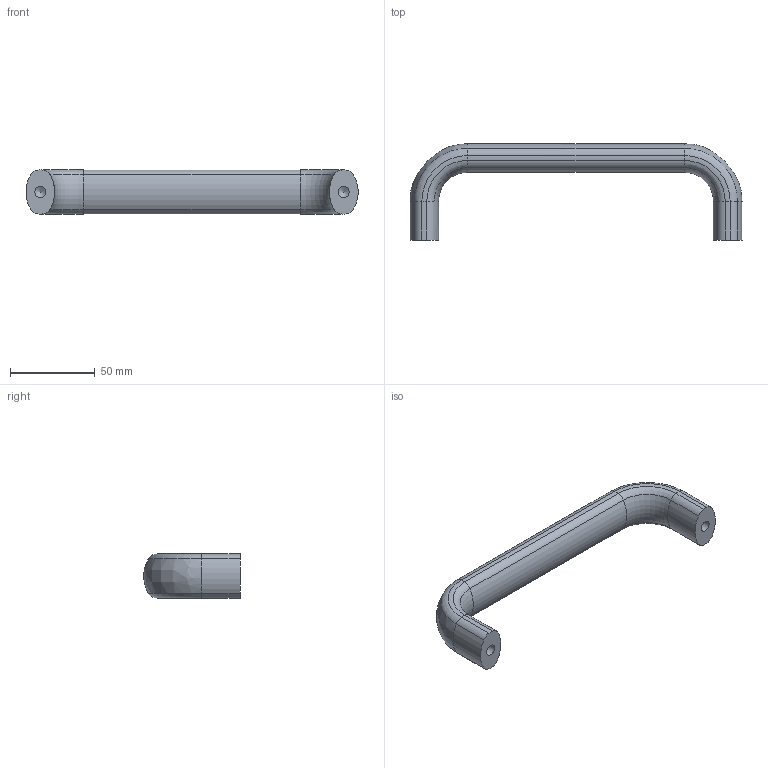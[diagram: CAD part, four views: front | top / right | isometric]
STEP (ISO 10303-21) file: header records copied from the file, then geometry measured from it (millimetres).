
FILE_DESCRIPTION( ( 'STEP AP203' ), '1' );
FILE_NAME( 'C:/Temp/Ganter_Step_05_03_2020/data/1_2/gn_565/Cabinet ''''U'''' handle GN 565-26-179-RS.stp', '2020-03-05T10:09:00', ( 'License CC BY-ND 4.0' ), ( 'CADENAS' ), ' ', 'PARTsolutions', ' ' );
FILE_SCHEMA( ( 'CONFIG_CONTROL_DESIGN' ) );
Length unit declared in the file: millimetre
Products named in the file (1): _Cabinet ''U'' handle GN 565-26-179-RS
Bounding box: 195.88 x 56.99 x 25.99 mm (x, y, z)
Volume: 89611 mm3; surface area: 18955.5 mm2
Topology: 1 solids, 1 shells, 52 faces, 130 edges, 80 vertices
Faces by surface type: cylinder 26, torus 14, plane 8, cone 2, bspline 2
Full cylindrical faces by diameter (mm): 6.647 x2
Entity records: 1648 total; most frequent: CARTESIAN_POINT 341, DIRECTION 302, ORIENTED_EDGE 248, AXIS2_PLACEMENT_3D 139, EDGE_CURVE 124, CIRCLE 88, VERTEX_POINT 80, EDGE_LOOP 56
